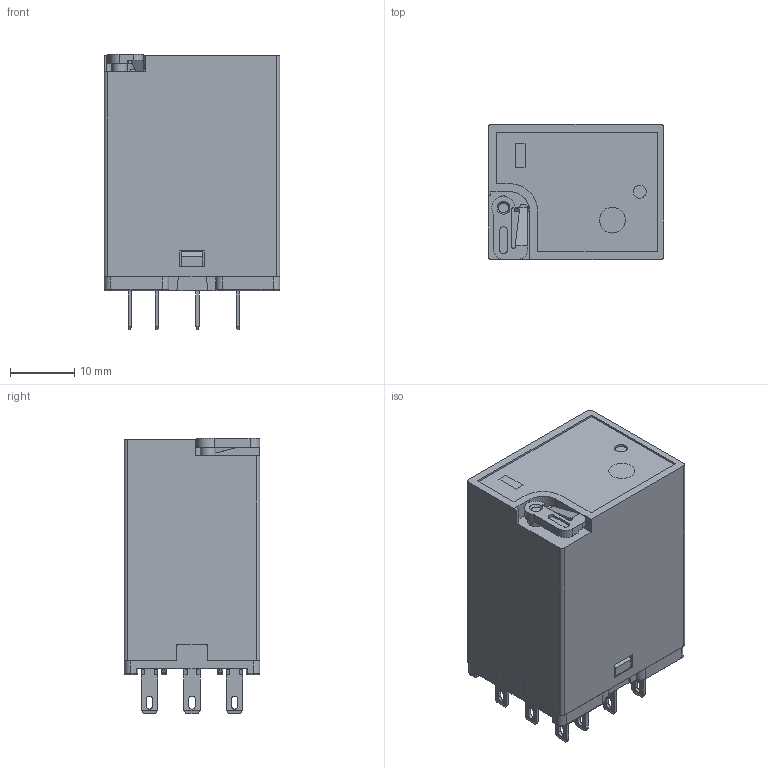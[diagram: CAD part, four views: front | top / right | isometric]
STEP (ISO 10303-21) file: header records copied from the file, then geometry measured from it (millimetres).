
FILE_DESCRIPTION(/* description */ (''),/* implementation_level */ '2;1');
FILE_NAME(/* name */ '18FH-3Z1.stp',/* time_stamp */ '2018-12-27T14:57:38+08:00',/* author */ (''),/* organization */ (''),/* preprocessor_version */ 'ST-DEVELOPER v15',/* originating_system */ 'SIEMENS PLM Software NX 8.5',/* authorisation */ '');
FILE_SCHEMA (('CONFIG_CONTROL_DESIGN'));
Length unit declared in the file: millimetre
Products named in the file (13): 77190533900_a; 66210829900_a; 77500391900_a; 80710159000_d; 83370005000_a; 86340695000_b; 89140050020_a; 61160153000_a; 66210881000_a; 66201145900_a; 61210587000_b; 56701805000_a; 45201771000_a
Assembly tree (21 placements, depth 5):
  45201771000_a
    56701805000_a
      61210587000_b
        80710159000_d
        66201145900_a  x6
          77190533900_a
        77500391900_a  x5
      66210881000_a
        66210829900_a
      89140050020_a
    61160153000_a
      86340695000_b
      83370005000_a
Bounding box: 27.2 x 21 x 42.7 mm (x, y, z)
Volume: 6594.6 mm3; surface area: 11769.7 mm2
Topology: 31 solids, 31 shells, 1720 faces, 4447 edges, 2835 vertices
Faces by surface type: plane 1116, cylinder 470, extrusion 42, sphere 39, torus 36, bspline 11, cone 6
Full cylindrical faces by diameter (mm): 2 x1, 2.05 x6, 2.4 x1, 2.6 x1, 4 x1, 4.5 x1, 6 x1, 6.5 x1
Entity records: 41455 total; most frequent: CARTESIAN_POINT 12986, ORIENTED_EDGE 5654, DIRECTION 5348, EDGE_CURVE 2827, VECTOR 1988, LINE 1946, VERTEX_POINT 1798, AXIS2_PLACEMENT_3D 1680
